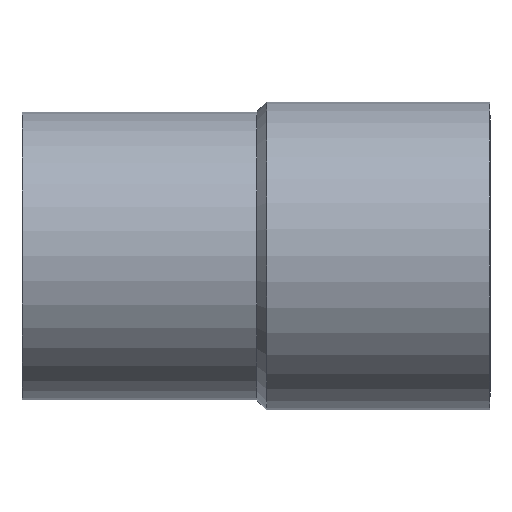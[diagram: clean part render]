
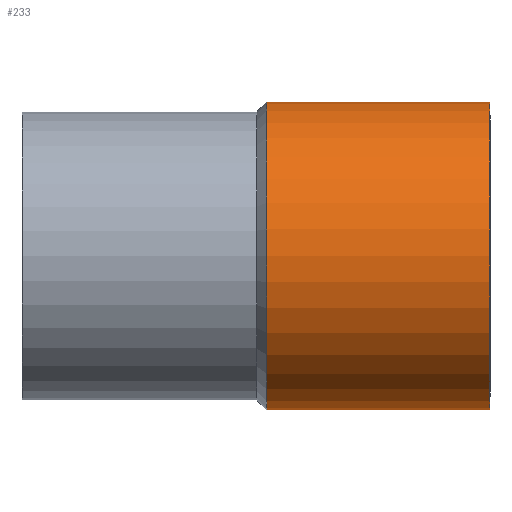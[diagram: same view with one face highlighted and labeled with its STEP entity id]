
A CAD part, top view. The second image highlights one B-rep face of the part: STEP entity #233.
In plain terms, the highlighted cylindrical face has radius 8.555 mm (diameter 17.11 mm), a partial arc.
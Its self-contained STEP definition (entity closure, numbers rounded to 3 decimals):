
#192=CARTESIAN_POINT('',(19.793,0.0,0.0));
#193=DIRECTION('',(1.0,0.0,0.0));
#194=DIRECTION('',(0.0,1.0,0.0));
#195=AXIS2_PLACEMENT_3D('',#192,#193,#194);
#196=CYLINDRICAL_SURFACE('',#195,8.555);
#197=CARTESIAN_POINT('',(13.586,8.555,0.0));
#198=VERTEX_POINT('',#197);
#199=CARTESIAN_POINT('',(26.0,8.555,0.0));
#200=VERTEX_POINT('',#199);
#201=CARTESIAN_POINT('',(13.586,8.555,0.0));
#202=DIRECTION('',(1.0,0.0,0.0));
#203=VECTOR('',#202,12.414);
#204=LINE('',#201,#203);
#205=EDGE_CURVE('',#198,#200,#204,.T.);
#206=ORIENTED_EDGE('',*,*,#205,.F.);
#207=CARTESIAN_POINT('',(13.586,-8.555,0.));
#208=VERTEX_POINT('',#207);
#209=CARTESIAN_POINT('',(13.586,0.0,0.0));
#210=DIRECTION('',(1.0,0.0,0.0));
#211=DIRECTION('',(0.0,1.0,0.0));
#212=AXIS2_PLACEMENT_3D('',#209,#210,#211);
#213=CIRCLE('',#212,8.555);
#214=EDGE_CURVE('',#198,#208,#213,.T.);
#215=ORIENTED_EDGE('',*,*,#214,.T.);
#216=CARTESIAN_POINT('',(26.0,-8.555,0.));
#217=VERTEX_POINT('',#216);
#218=CARTESIAN_POINT('',(26.0,-8.555,0.));
#219=DIRECTION('',(-1.0,0.0,0.0));
#220=VECTOR('',#219,12.414);
#221=LINE('',#218,#220);
#222=EDGE_CURVE('',#217,#208,#221,.T.);
#223=ORIENTED_EDGE('',*,*,#222,.F.);
#224=CARTESIAN_POINT('',(26.0,0.0,0.0));
#225=DIRECTION('',(1.0,0.0,0.0));
#226=DIRECTION('',(0.0,1.0,0.0));
#227=AXIS2_PLACEMENT_3D('',#224,#225,#226);
#228=CIRCLE('',#227,8.555);
#229=EDGE_CURVE('',#200,#217,#228,.T.);
#230=ORIENTED_EDGE('',*,*,#229,.F.);
#231=EDGE_LOOP('',(#206,#215,#223,#230));
#232=FACE_OUTER_BOUND('',#231,.T.);
#233=ADVANCED_FACE('',(#232),#196,.T.);
